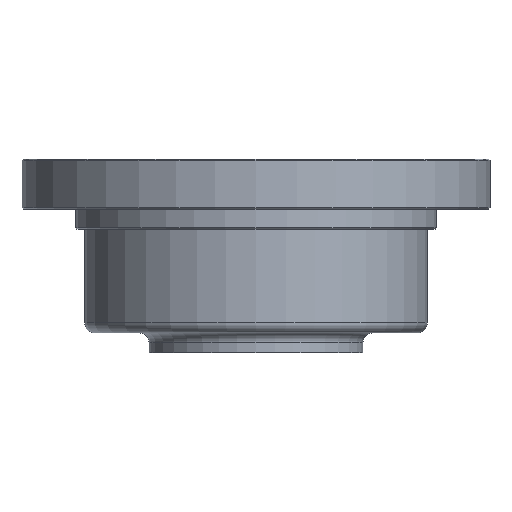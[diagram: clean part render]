
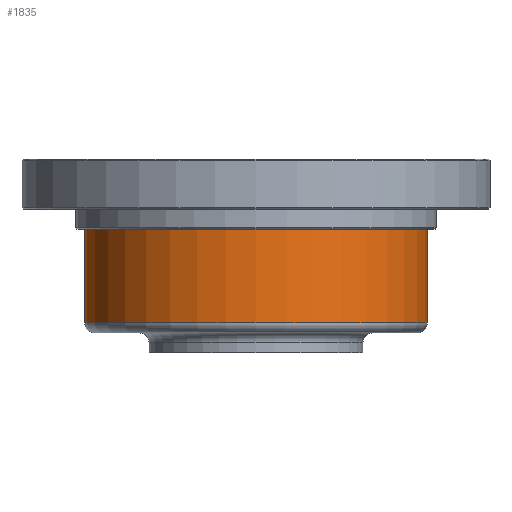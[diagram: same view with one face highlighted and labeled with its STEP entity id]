
A CAD part, front view. The second image highlights one B-rep face of the part: STEP entity #1835.
In plain terms, the highlighted cylindrical face has radius 25.62 mm (diameter 51.24 mm), a partial arc.
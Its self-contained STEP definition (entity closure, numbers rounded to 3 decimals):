
#178 = CYLINDRICAL_SURFACE ( 'NONE', #3402, 25.62 ) ;
#284 = CARTESIAN_POINT ( 'NONE',  ( 9.5, 0., 25.62 ) ) ;
#296 = CIRCLE ( 'NONE', #7694, 25.62 ) ;
#498 = CARTESIAN_POINT ( 'NONE',  ( 0., 0., 25.62 ) ) ;
#755 = EDGE_CURVE ( 'NONE', #1125, #6357, #9579, .T. ) ;
#821 = CARTESIAN_POINT ( 'NONE',  ( 0., 0., 0. ) ) ;
#905 = VECTOR ( 'NONE', #7360, 1000. ) ;
#1125 = VERTEX_POINT ( 'NONE', #7601 ) ;
#1463 = EDGE_CURVE ( 'NONE', #1125, #2322, #3829, .T. ) ;
#1711 = CARTESIAN_POINT ( 'NONE',  ( 9.5, 0., -25.62 ) ) ;
#1835 = ADVANCED_FACE ( 'NONE', ( #3467 ), #178, .T. ) ;
#2058 = CARTESIAN_POINT ( 'NONE',  ( 0., 0., -25.62 ) ) ;
#2275 = DIRECTION ( 'NONE',  ( -1., 0., 0. ) ) ;
#2322 = VERTEX_POINT ( 'NONE', #7226 ) ;
#3402 = AXIS2_PLACEMENT_3D ( 'NONE', #821, #2275, #8360 ) ;
#3467 = FACE_OUTER_BOUND ( 'NONE', #5706, .T. ) ;
#3521 = EDGE_CURVE ( 'NONE', #2322, #7658, #7313, .T. ) ;
#3829 = CIRCLE ( 'NONE', #4230, 25.62 ) ;
#4230 = AXIS2_PLACEMENT_3D ( 'NONE', #7933, #9440, #9505 ) ;
#5702 = ORIENTED_EDGE ( 'NONE', *, *, #3521, .T. ) ;
#5706 = EDGE_LOOP ( 'NONE', ( #7221, #8788, #5702, #7124 ) ) ;
#6252 = DIRECTION ( 'NONE',  ( -1., 0., 0. ) ) ;
#6357 = VERTEX_POINT ( 'NONE', #1711 ) ;
#7008 = DIRECTION ( 'NONE',  ( 0., 0., 1. ) ) ;
#7084 = VECTOR ( 'NONE', #9489, 1000. ) ;
#7124 = ORIENTED_EDGE ( 'NONE', *, *, #8158, .F. ) ;
#7221 = ORIENTED_EDGE ( 'NONE', *, *, #755, .F. ) ;
#7226 = CARTESIAN_POINT ( 'NONE',  ( 24.5, 0., 25.62 ) ) ;
#7313 = LINE ( 'NONE', #498, #7084 ) ;
#7360 = DIRECTION ( 'NONE',  ( -1., 0., 0. ) ) ;
#7601 = CARTESIAN_POINT ( 'NONE',  ( 24.5, 0., -25.62 ) ) ;
#7658 = VERTEX_POINT ( 'NONE', #284 ) ;
#7694 = AXIS2_PLACEMENT_3D ( 'NONE', #9272, #6252, #7008 ) ;
#7933 = CARTESIAN_POINT ( 'NONE',  ( 24.5, 0., 0. ) ) ;
#8158 = EDGE_CURVE ( 'NONE', #6357, #7658, #296, .T. ) ;
#8360 = DIRECTION ( 'NONE',  ( 0., 0., 1. ) ) ;
#8788 = ORIENTED_EDGE ( 'NONE', *, *, #1463, .T. ) ;
#9272 = CARTESIAN_POINT ( 'NONE',  ( 9.5, 0., 0. ) ) ;
#9440 = DIRECTION ( 'NONE',  ( -1., 0., 0. ) ) ;
#9489 = DIRECTION ( 'NONE',  ( -1., 0., 0. ) ) ;
#9505 = DIRECTION ( 'NONE',  ( 0., 0., 1. ) ) ;
#9579 = LINE ( 'NONE', #2058, #905 ) ;
